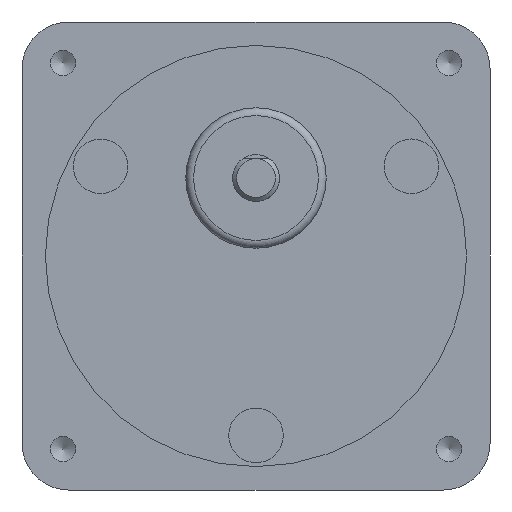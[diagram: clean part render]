
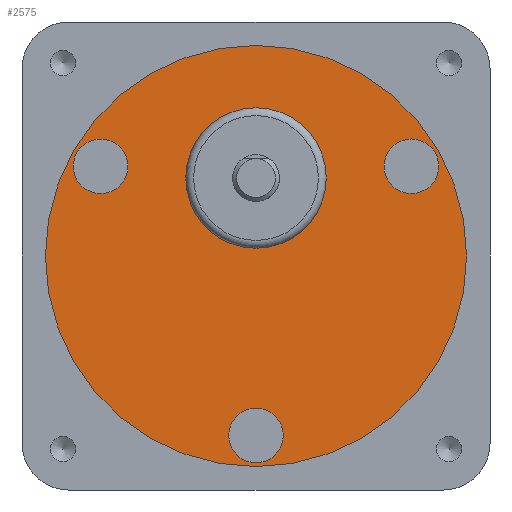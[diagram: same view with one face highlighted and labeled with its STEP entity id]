
A CAD part, front view. The second image highlights one B-rep face of the part: STEP entity #2575.
In plain terms, the highlighted planar face has unit normal (0, -1, 0).
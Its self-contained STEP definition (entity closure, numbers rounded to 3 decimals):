
#1447=CARTESIAN_POINT('',(18.169,-3.5,14.531));
#1448=VERTEX_POINT('',#1447);
#1449=CARTESIAN_POINT('',(19.919,-3.5,11.5));
#1450=DIRECTION('',(0.0,1.0,0.0));
#1451=DIRECTION('',(0.5,0.0,-0.866));
#1452=AXIS2_PLACEMENT_3D('',#1449,#1450,#1451);
#1453=CIRCLE('',#1452,3.5);
#1454=EDGE_CURVE('',#1448,#1448,#1453,.T.);
#1484=CARTESIAN_POINT('',(-21.669,-3.5,8.469));
#1485=VERTEX_POINT('',#1484);
#1486=CARTESIAN_POINT('',(-19.919,-3.5,11.5));
#1487=DIRECTION('',(0.0,1.,0.0));
#1488=DIRECTION('',(0.5,0.0,0.866));
#1489=AXIS2_PLACEMENT_3D('',#1486,#1487,#1488);
#1490=CIRCLE('',#1489,3.5);
#1491=EDGE_CURVE('',#1485,#1485,#1490,.T.);
#1521=CARTESIAN_POINT('',(3.5,-3.5,-23.));
#1522=VERTEX_POINT('',#1521);
#1523=CARTESIAN_POINT('',(0.,-3.5,-23.));
#1524=DIRECTION('',(0.0,1.0,0.0));
#1525=DIRECTION('',(-1.0,0.0,0.0));
#1526=AXIS2_PLACEMENT_3D('',#1523,#1524,#1525);
#1527=CIRCLE('',#1526,3.5);
#1528=EDGE_CURVE('',#1522,#1522,#1527,.T.);
#2524=CARTESIAN_POINT('',(27.,-3.5,0.));
#2525=VERTEX_POINT('',#2524);
#2526=CARTESIAN_POINT('',(0.,-3.5,0.));
#2527=DIRECTION('',(0.0,-1.0,0.0));
#2528=DIRECTION('',(-1.0,0.0,0.0));
#2529=AXIS2_PLACEMENT_3D('',#2526,#2527,#2528);
#2530=CIRCLE('',#2529,27.0);
#2531=EDGE_CURVE('',#2525,#2525,#2530,.T.);
#2547=CARTESIAN_POINT('',(0.,-3.5,0.));
#2548=DIRECTION('',(0.0,1.0,0.0));
#2549=DIRECTION('',(0.0,0.0,1.0));
#2550=AXIS2_PLACEMENT_3D('',#2547,#2548,#2549);
#2551=PLANE('',#2550);
#2552=ORIENTED_EDGE('',*,*,#2531,.T.);
#2553=EDGE_LOOP('',(#2552));
#2554=FACE_OUTER_BOUND('',#2553,.T.);
#2555=ORIENTED_EDGE('',*,*,#1454,.T.);
#2556=EDGE_LOOP('',(#2555));
#2557=FACE_BOUND('',#2556,.T.);
#2558=ORIENTED_EDGE('',*,*,#1491,.T.);
#2559=EDGE_LOOP('',(#2558));
#2560=FACE_BOUND('',#2559,.T.);
#2561=ORIENTED_EDGE('',*,*,#1528,.T.);
#2562=EDGE_LOOP('',(#2561));
#2563=FACE_BOUND('',#2562,.T.);
#2564=CARTESIAN_POINT('',(9.,-3.5,10.));
#2565=VERTEX_POINT('',#2564);
#2566=CARTESIAN_POINT('',(0.,-3.5,10.));
#2567=DIRECTION('',(0.0,-1.0,0.0));
#2568=DIRECTION('',(-1.0,0.0,0.0));
#2569=AXIS2_PLACEMENT_3D('',#2566,#2567,#2568);
#2570=CIRCLE('',#2569,9.0);
#2571=EDGE_CURVE('',#2565,#2565,#2570,.T.);
#2572=ORIENTED_EDGE('',*,*,#2571,.F.);
#2573=EDGE_LOOP('',(#2572));
#2574=FACE_BOUND('',#2573,.T.);
#2575=ADVANCED_FACE('',(#2554,#2557,#2560,#2563,#2574),#2551,.F.);
